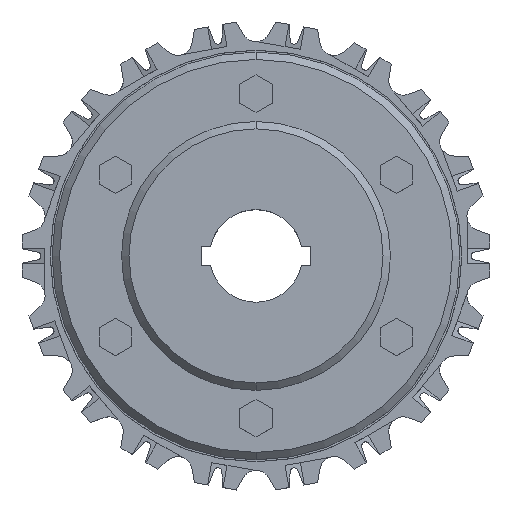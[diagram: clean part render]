
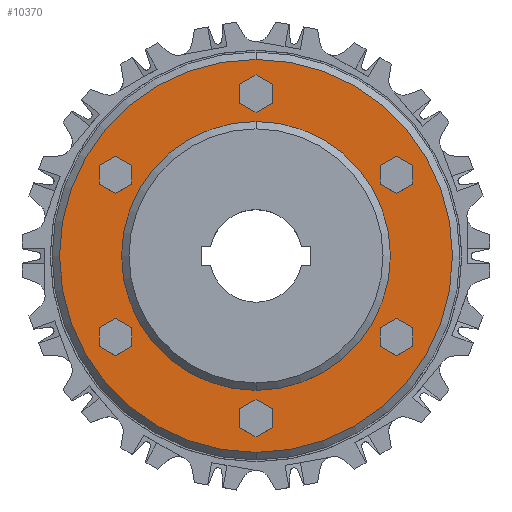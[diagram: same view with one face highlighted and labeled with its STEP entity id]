
A CAD part, top view. The second image highlights one B-rep face of the part: STEP entity #10370.
In plain terms, the highlighted planar face has unit normal (0, 0, 1) as drawn and (0, 1, 0) by its records, which use the part's own axes.
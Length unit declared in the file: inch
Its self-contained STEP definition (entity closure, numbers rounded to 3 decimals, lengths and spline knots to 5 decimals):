
#9866=CARTESIAN_POINT('',(0.,0.095,0.));
#9867=DIRECTION('',(0.,1.,0.));
#9868=DIRECTION('',(1.,0.,0.));
#9869=AXIS2_PLACEMENT_3D('',#9866,#9867,#9868);
#9876=CARTESIAN_POINT('',(0.,0.095,0.));
#9877=DIRECTION('',(0.,-1.,0.));
#9878=DIRECTION('',(1.,0.,0.));
#9879=AXIS2_PLACEMENT_3D('',#9876,#9877,#9878);
#9881=CARTESIAN_POINT('',(0.,0.095,0.));
#9882=DIRECTION('',(0.,-1.,0.));
#9883=DIRECTION('',(-1.,0.,0.));
#9884=AXIS2_PLACEMENT_3D('',#9881,#9882,#9883);
#9886=CARTESIAN_POINT('',(-2.188,0.095,0.));
#9887=DIRECTION('',(0.,-1.,0.));
#9888=DIRECTION('',(1.,0.,0.));
#9889=AXIS2_PLACEMENT_3D('',#9886,#9887,#9888);
#9891=CARTESIAN_POINT('',(-2.188,0.095,0.));
#9892=DIRECTION('',(0.,-1.,0.));
#9893=DIRECTION('',(-1.,0.,0.));
#9894=AXIS2_PLACEMENT_3D('',#9891,#9892,#9893);
#9896=CARTESIAN_POINT('',(-1.094,0.095,-1.89486));
#9897=DIRECTION('',(0.,-1.,0.));
#9898=DIRECTION('',(0.5,0.,0.866));
#9899=AXIS2_PLACEMENT_3D('',#9896,#9897,#9898);
#9901=CARTESIAN_POINT('',(-1.094,0.095,-1.89486));
#9902=DIRECTION('',(0.,-1.,0.));
#9903=DIRECTION('',(-0.5,0.,-0.866));
#9904=AXIS2_PLACEMENT_3D('',#9901,#9902,#9903);
#9906=CARTESIAN_POINT('',(1.094,0.095,-1.89486));
#9907=DIRECTION('',(0.,-1.,0.));
#9908=DIRECTION('',(-0.5,0.,0.866));
#9909=AXIS2_PLACEMENT_3D('',#9906,#9907,#9908);
#9911=CARTESIAN_POINT('',(1.094,0.095,-1.89486));
#9912=DIRECTION('',(0.,-1.,0.));
#9913=DIRECTION('',(0.5,0.,-0.866));
#9914=AXIS2_PLACEMENT_3D('',#9911,#9912,#9913);
#9916=CARTESIAN_POINT('',(2.188,0.095,0.));
#9917=DIRECTION('',(0.,-1.,0.));
#9918=DIRECTION('',(-1.,0.,0.));
#9919=AXIS2_PLACEMENT_3D('',#9916,#9917,#9918);
#9921=CARTESIAN_POINT('',(2.188,0.095,0.));
#9922=DIRECTION('',(0.,-1.,0.));
#9923=DIRECTION('',(1.,0.,0.));
#9924=AXIS2_PLACEMENT_3D('',#9921,#9922,#9923);
#9926=CARTESIAN_POINT('',(1.094,0.095,1.89486));
#9927=DIRECTION('',(0.,-1.,0.));
#9928=DIRECTION('',(-0.5,0.,-0.866));
#9929=AXIS2_PLACEMENT_3D('',#9926,#9927,#9928);
#9931=CARTESIAN_POINT('',(1.094,0.095,1.89486));
#9932=DIRECTION('',(0.,-1.,0.));
#9933=DIRECTION('',(0.5,0.,0.866));
#9934=AXIS2_PLACEMENT_3D('',#9931,#9932,#9933);
#9936=CARTESIAN_POINT('',(-1.094,0.095,1.89486));
#9937=DIRECTION('',(0.,-1.,0.));
#9938=DIRECTION('',(0.5,0.,-0.866));
#9939=AXIS2_PLACEMENT_3D('',#9936,#9937,#9938);
#9941=CARTESIAN_POINT('',(-1.094,0.095,1.89486));
#9942=DIRECTION('',(0.,-1.,0.));
#9943=DIRECTION('',(-0.5,0.,0.866));
#9944=AXIS2_PLACEMENT_3D('',#9941,#9942,#9943);
#10048=CARTESIAN_POINT('',(0.,0.095,0.));
#10049=DIRECTION('',(0.,1.,0.));
#10050=DIRECTION('',(-1.,0.,0.));
#10051=AXIS2_PLACEMENT_3D('',#10048,#10049,#10050);
#10122=CARTESIAN_POINT('',(1.813,0.095,0.));
#10123=CARTESIAN_POINT('',(-1.813,0.095,0.));
#10124=VERTEX_POINT('',#10122);
#10125=VERTEX_POINT('',#10123);
#10126=CARTESIAN_POINT('',(2.65,0.095,0.));
#10127=CARTESIAN_POINT('',(-2.65,0.095,0.));
#10128=VERTEX_POINT('',#10126);
#10129=VERTEX_POINT('',#10127);
#10138=CARTESIAN_POINT('',(-2.061,0.095,0.));
#10139=CARTESIAN_POINT('',(-2.315,0.095,0.));
#10140=VERTEX_POINT('',#10138);
#10141=VERTEX_POINT('',#10139);
#10170=CARTESIAN_POINT('',(-1.0305,0.095,-1.78488));
#10171=CARTESIAN_POINT('',(-1.1575,0.095,-2.00485));
#10172=VERTEX_POINT('',#10170);
#10173=VERTEX_POINT('',#10171);
#10174=CARTESIAN_POINT('',(1.0305,0.095,-1.78488));
#10175=CARTESIAN_POINT('',(1.1575,0.095,-2.00485));
#10176=VERTEX_POINT('',#10174);
#10177=VERTEX_POINT('',#10175);
#10178=CARTESIAN_POINT('',(2.061,0.095,0.));
#10179=CARTESIAN_POINT('',(2.315,0.095,0.));
#10180=VERTEX_POINT('',#10178);
#10181=VERTEX_POINT('',#10179);
#10182=CARTESIAN_POINT('',(1.0305,0.095,1.78488));
#10183=CARTESIAN_POINT('',(1.1575,0.095,2.00485));
#10184=VERTEX_POINT('',#10182);
#10185=VERTEX_POINT('',#10183);
#10186=CARTESIAN_POINT('',(-1.0305,0.095,1.78488));
#10187=CARTESIAN_POINT('',(-1.1575,0.095,2.00485));
#10188=VERTEX_POINT('',#10186);
#10189=VERTEX_POINT('',#10187);
#10318=CARTESIAN_POINT('',(0.,0.095,0.));
#10319=DIRECTION('',(0.,1.,0.));
#10320=DIRECTION('',(1.,0.,0.));
#10321=AXIS2_PLACEMENT_3D('',#10318,#10319,#10320);
#10322=PLANE('',#10321);
#10323=ORIENTED_EDGE('',*,*,#10308,.F.);
#10325=ORIENTED_EDGE('',*,*,#10324,.F.);
#10326=EDGE_LOOP('',(#10323,#10325));
#10327=FACE_OUTER_BOUND('',#10326,.F.);
#10329=ORIENTED_EDGE('',*,*,#10328,.F.);
#10331=ORIENTED_EDGE('',*,*,#10330,.F.);
#10332=EDGE_LOOP('',(#10329,#10331));
#10333=FACE_BOUND('',#10332,.F.);
#10335=ORIENTED_EDGE('',*,*,#10334,.F.);
#10337=ORIENTED_EDGE('',*,*,#10336,.F.);
#10338=EDGE_LOOP('',(#10335,#10337));
#10339=FACE_BOUND('',#10338,.F.);
#10341=ORIENTED_EDGE('',*,*,#10340,.F.);
#10343=ORIENTED_EDGE('',*,*,#10342,.F.);
#10344=EDGE_LOOP('',(#10341,#10343));
#10345=FACE_BOUND('',#10344,.F.);
#10347=ORIENTED_EDGE('',*,*,#10346,.F.);
#10349=ORIENTED_EDGE('',*,*,#10348,.F.);
#10350=EDGE_LOOP('',(#10347,#10349));
#10351=FACE_BOUND('',#10350,.F.);
#10353=ORIENTED_EDGE('',*,*,#10352,.F.);
#10355=ORIENTED_EDGE('',*,*,#10354,.F.);
#10356=EDGE_LOOP('',(#10353,#10355));
#10357=FACE_BOUND('',#10356,.F.);
#10359=ORIENTED_EDGE('',*,*,#10358,.F.);
#10361=ORIENTED_EDGE('',*,*,#10360,.F.);
#10362=EDGE_LOOP('',(#10359,#10361));
#10363=FACE_BOUND('',#10362,.F.);
#10365=ORIENTED_EDGE('',*,*,#10364,.F.);
#10367=ORIENTED_EDGE('',*,*,#10366,.F.);
#10368=EDGE_LOOP('',(#10365,#10367));
#10369=FACE_BOUND('',#10368,.F.);
#10370=ADVANCED_FACE('',(#10327,#10333,#10339,#10345,#10351,#10357,#10363,
#10369),#10322,.T.);
#9870=CIRCLE('',#9869,2.65);
#9880=CIRCLE('',#9879,1.813);
#9885=CIRCLE('',#9884,1.813);
#9890=CIRCLE('',#9889,0.127);
#9895=CIRCLE('',#9894,0.127);
#9900=CIRCLE('',#9899,0.127);
#9905=CIRCLE('',#9904,0.127);
#9910=CIRCLE('',#9909,0.127);
#9915=CIRCLE('',#9914,0.127);
#9920=CIRCLE('',#9919,0.127);
#9925=CIRCLE('',#9924,0.127);
#9930=CIRCLE('',#9929,0.127);
#9935=CIRCLE('',#9934,0.127);
#9940=CIRCLE('',#9939,0.127);
#9945=CIRCLE('',#9944,0.127);
#10052=CIRCLE('',#10051,2.65);
#10308=EDGE_CURVE('',#10128,#10129,#9870,.T.);
#10324=EDGE_CURVE('',#10129,#10128,#10052,.T.);
#10328=EDGE_CURVE('',#10124,#10125,#9880,.T.);
#10330=EDGE_CURVE('',#10125,#10124,#9885,.T.);
#10334=EDGE_CURVE('',#10140,#10141,#9890,.T.);
#10336=EDGE_CURVE('',#10141,#10140,#9895,.T.);
#10340=EDGE_CURVE('',#10172,#10173,#9900,.T.);
#10342=EDGE_CURVE('',#10173,#10172,#9905,.T.);
#10346=EDGE_CURVE('',#10176,#10177,#9910,.T.);
#10348=EDGE_CURVE('',#10177,#10176,#9915,.T.);
#10352=EDGE_CURVE('',#10180,#10181,#9920,.T.);
#10354=EDGE_CURVE('',#10181,#10180,#9925,.T.);
#10358=EDGE_CURVE('',#10184,#10185,#9930,.T.);
#10360=EDGE_CURVE('',#10185,#10184,#9935,.T.);
#10364=EDGE_CURVE('',#10188,#10189,#9940,.T.);
#10366=EDGE_CURVE('',#10189,#10188,#9945,.T.);
